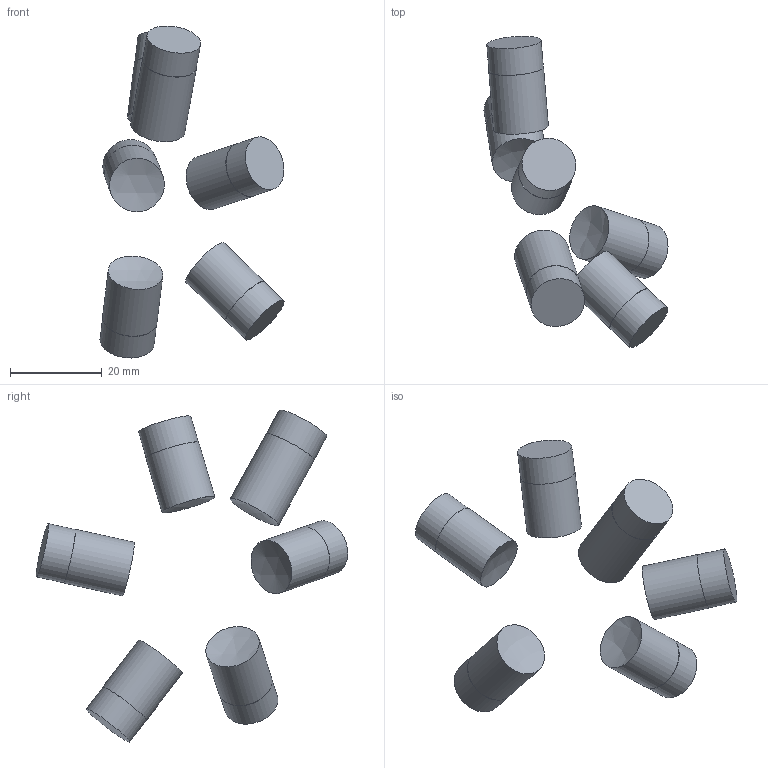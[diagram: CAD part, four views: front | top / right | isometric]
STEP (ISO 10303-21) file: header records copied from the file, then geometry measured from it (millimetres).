
FILE_DESCRIPTION(('Open CASCADE Model'),'2;1');
FILE_NAME('Open CASCADE Shape Model','2026-10-21T12:47:57',('Author'),( 'Open CASCADE'),'Open CASCADE STEP processor 7.9','Open CASCADE 7.9' ,'Unknown');
FILE_SCHEMA(('AUTOMOTIVE_DESIGN { 1 0 10303 214 1 1 1 1 }'));
Length unit declared in the file: millimetre
Products named in the file (1): Open CASCADE STEP translator 7.9 140
Bounding box: 40.22 x 68.08 x 72.57 mm (x, y, z)
Volume: 12711.7 mm3; surface area: 5726.6 mm2
Topology: 5 solids, 5 shells, 29 faces, 41 edges, 28 vertices
Faces by surface type: cylinder 12, plane 12, sphere 5
Full cylindrical faces by diameter (mm): 11.9 x6, 12 x6
Entity records: 1728 total; most frequent: CARTESIAN_POINT 744, DIRECTION 202, ORIENTED_EDGE 86, PCURVE 86, DEFINITIONAL_REPRESENTATION 86, LINE 70, VECTOR 70, AXIS2_PLACEMENT_3D 57
